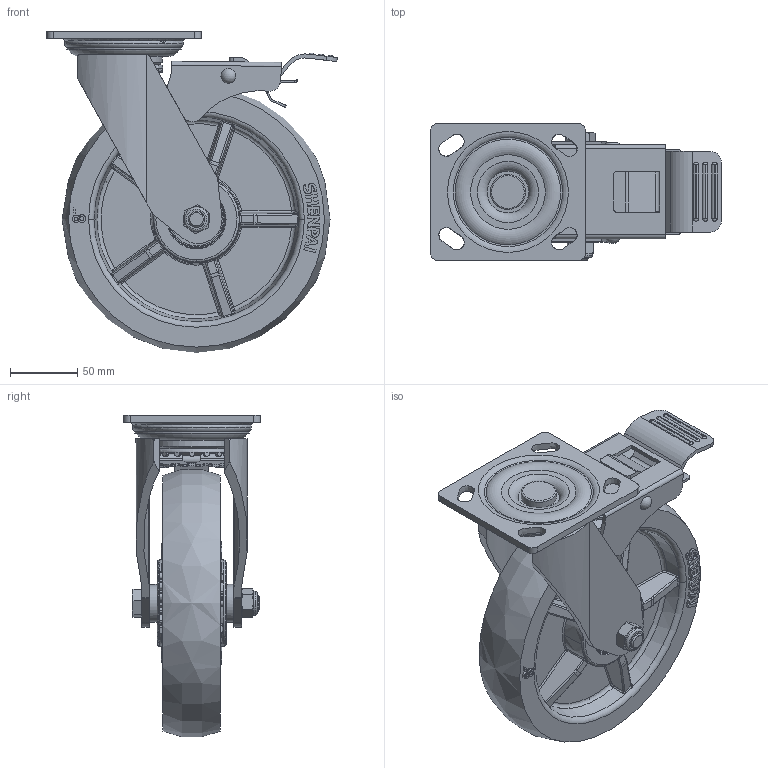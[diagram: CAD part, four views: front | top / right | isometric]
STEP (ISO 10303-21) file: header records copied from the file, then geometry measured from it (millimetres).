
FILE_DESCRIPTION(/* description */ (''),/* implementation_level */ '2;1');
FILE_NAME(/* name */ '35C23_8_R.stp',/* time_stamp */ '2022-10-17T13:04:48+08:00',/* author */ (''),/* organization */ (''),/* preprocessor_version */ 'ST-DEVELOPER v14',/* originating_system */ 'SIEMENS PLM Software NX 8.0',/* authorisation */ '');
FILE_SCHEMA (('AUTOMOTIVE_DESIGN { 1 0 10303 214 3 1 1 1 }'));
Products named in the file (1): 35C23_8_R
Bounding box: 216.32 x 102 x 239.44 mm (x, y, z)
Surface area: 262222.6 mm2
Topology: 1 solids, 2 shells, 1392 faces, 3748 edges, 2405 vertices
Faces by surface type: plane 632, cylinder 332, bspline 160, torus 100, extrusion 98, cone 44, sphere 26
Full cylindrical faces by diameter (mm): 4 x2, 6.2 x1, 6.4 x1, 12 x2, 12.3 x4, 16.2 x1, 16.3 x1, 18 x1, 20.5 x2, 22.276 x1, 26.256 x1, 28 x2, 39.85 x2, 40 x1, 57 x1, 85 x1
Entity records: 59833 total; most frequent: CARTESIAN_POINT 27936, ORIENTED_EDGE 7112, DIRECTION 5685, EDGE_CURVE 3556, VERTEX_POINT 2327, AXIS2_PLACEMENT_3D 2037, EDGE_LOOP 1632, VECTOR 1611
